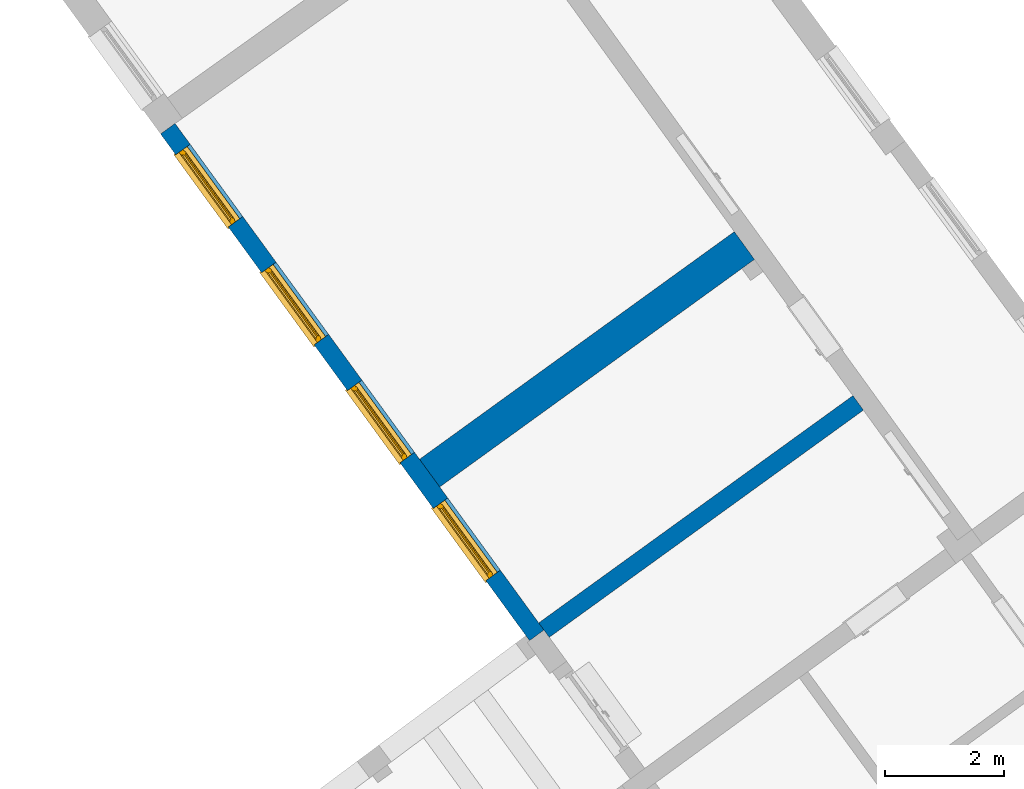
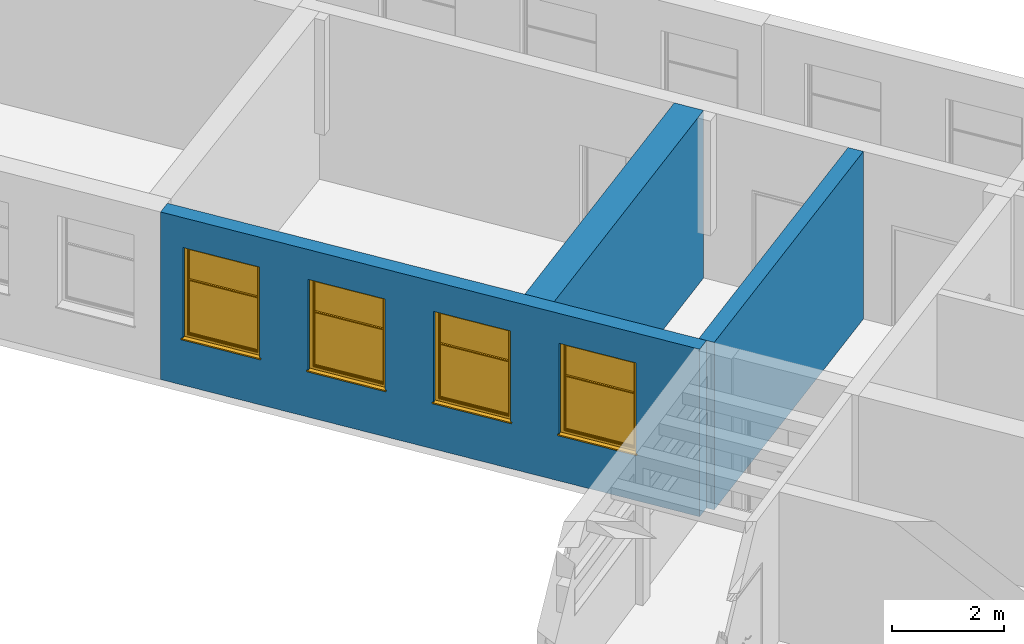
"""IFC2X3 building model written with IfcOpenShell, lengths in millimetres."""

from ifc_helpers import new_model, entity, si_unit, converted_unit, derived_unit, direction, frame, frame_2d, origin, place, context, subcontext, project, spatial, polyline, rectangle, outline, extrude, faceted_brep, source, transform, mapped, material, material_list, layer, layer_set, layer_usage, type_object, type_shapes, element, fill, save


model = new_model("IFC2X3")

# Units and contexts
model_context = context("Model", 3, precision=0.01, world=origin(), true_north=direction((6.123031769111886e-17, 1.0)))
body_context = subcontext(model_context, "Body", "Model", "MODEL_VIEW")
ifc_project = project(units=[si_unit("LENGTHUNIT", "METRE", prefix="MILLI"), si_unit("AREAUNIT", "SQUARE_METRE"), si_unit("VOLUMEUNIT", "CUBIC_METRE"), converted_unit("PLANEANGLEUNIT", "DEGREE", entity("IfcRatioMeasure", 0.017453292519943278), si_unit("PLANEANGLEUNIT", "RADIAN"), dimensions=[0, 0, 0, 0, 0, 0, 0]), si_unit("MASSUNIT", "GRAM", prefix="KILO"), derived_unit("MASSDENSITYUNIT", [(si_unit("MASSUNIT", "GRAM", prefix="KILO"), 1), (si_unit("LENGTHUNIT", "METRE"), -3)]), derived_unit("MOMENTOFINERTIAUNIT", [(si_unit("LENGTHUNIT", "METRE"), 4)]), si_unit("TIMEUNIT", "SECOND"), si_unit("FREQUENCYUNIT", "HERTZ"), si_unit("THERMODYNAMICTEMPERATUREUNIT", "DEGREE_CELSIUS"), derived_unit("THERMALTRANSMITTANCEUNIT", [(si_unit("MASSUNIT", "GRAM", prefix="KILO"), 1), (si_unit("THERMODYNAMICTEMPERATUREUNIT", "KELVIN"), -1), (si_unit("TIMEUNIT", "SECOND"), -3)]), derived_unit("THERMALCONDUCTANCEUNIT", [(si_unit("MASSUNIT", "GRAM", prefix="KILO"), 1), (si_unit("LENGTHUNIT", "METRE"), 1), (si_unit("THERMODYNAMICTEMPERATUREUNIT", "KELVIN"), -1), (si_unit("TIMEUNIT", "SECOND"), -3)]), derived_unit("VOLUMETRICFLOWRATEUNIT", [(si_unit("LENGTHUNIT", "METRE"), 3), (si_unit("TIMEUNIT", "SECOND"), -1)]), derived_unit("MASSFLOWRATEUNIT", [(si_unit("MASSUNIT", "GRAM", prefix="KILO"), 1), (si_unit("TIMEUNIT", "SECOND"), -1)]), derived_unit("ROTATIONALFREQUENCYUNIT", [(si_unit("TIMEUNIT", "SECOND"), -1)]), si_unit("ELECTRICCURRENTUNIT", "AMPERE"), si_unit("ELECTRICVOLTAGEUNIT", "VOLT"), si_unit("POWERUNIT", "WATT"), converted_unit("FORCEUNIT", "KIP", entity("IfcRatioMeasure", 2.088543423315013e-05), si_unit("FORCEUNIT", "NEWTON"), dimensions=[1, 1, -2, 0, 0, 0, 0]), si_unit("ILLUMINANCEUNIT", "LUX"), si_unit("LUMINOUSFLUXUNIT", "LUMEN"), si_unit("LUMINOUSINTENSITYUNIT", "CANDELA"), derived_unit("USERDEFINED", [(si_unit("MASSUNIT", "GRAM", prefix="KILO"), -1), (si_unit("LENGTHUNIT", "METRE"), -2), (si_unit("TIMEUNIT", "SECOND"), 3), (si_unit("LUMINOUSFLUXUNIT", "LUMEN"), 1)]), derived_unit("USERDEFINED", [(si_unit("MASSUNIT", "GRAM", prefix="KILO"), 1), (si_unit("LENGTHUNIT", "METRE"), 3), (si_unit("TIMEUNIT", "SECOND"), -3), (si_unit("ELECTRICCURRENTUNIT", "AMPERE"), -2)]), derived_unit("USERDEFINED", [(si_unit("LENGTHUNIT", "METRE"), 2), (si_unit("TIMEUNIT", "SECOND"), -2)]), derived_unit("SOUNDPOWERUNIT", [(si_unit("MASSUNIT", "GRAM", prefix="KILO"), 1), (si_unit("LENGTHUNIT", "METRE"), 2), (si_unit("TIMEUNIT", "SECOND"), -3)]), derived_unit("SOUNDPRESSUREUNIT", [(si_unit("MASSUNIT", "GRAM", prefix="KILO"), 1), (si_unit("LENGTHUNIT", "METRE"), -1), (si_unit("TIMEUNIT", "SECOND"), -2)]), derived_unit("LINEARVELOCITYUNIT", [(si_unit("LENGTHUNIT", "METRE"), 1), (si_unit("TIMEUNIT", "SECOND"), -1)]), si_unit("PRESSUREUNIT", "PASCAL"), derived_unit("USERDEFINED", [(si_unit("LENGTHUNIT", "METRE"), -2), (si_unit("MASSUNIT", "GRAM", prefix="KILO"), 1), (si_unit("TIMEUNIT", "SECOND"), -2)]), derived_unit("LINEARFORCEUNIT", [(si_unit("MASSUNIT", "GRAM", prefix="KILO"), 1), (si_unit("LENGTHUNIT", "METRE"), 1), (si_unit("TIMEUNIT", "SECOND"), -2), (si_unit("LENGTHUNIT", "METRE"), -1)]), derived_unit("PLANARFORCEUNIT", [(si_unit("MASSUNIT", "GRAM", prefix="KILO"), 1), (si_unit("LENGTHUNIT", "METRE"), 1), (si_unit("TIMEUNIT", "SECOND"), -2), (si_unit("LENGTHUNIT", "METRE"), -2)]), derived_unit("SPECIFICHEATCAPACITYUNIT", [(si_unit("LENGTHUNIT", "METRE"), 2), (si_unit("TIMEUNIT", "SECOND"), -2), (si_unit("THERMODYNAMICTEMPERATUREUNIT", "KELVIN"), -1)]), derived_unit("VAPORPERMEABILITYUNIT", [(si_unit("TIMEUNIT", "SECOND"), 1), (si_unit("LENGTHUNIT", "METRE"), -1)]), derived_unit("DYNAMICVISCOSITYUNIT", [(si_unit("MASSUNIT", "GRAM", prefix="KILO"), 1), (si_unit("LENGTHUNIT", "METRE"), -1), (si_unit("TIMEUNIT", "SECOND"), -1)]), derived_unit("THERMALEXPANSIONCOEFFICIENTUNIT", [(si_unit("THERMODYNAMICTEMPERATUREUNIT", "KELVIN"), -1)])], contexts=[model_context])

# Site, building, storey
site_placement = place(None, frame((0.0, 0.0, 0.0), z_axis=(0.0, 0.0, 1.0), x_axis=(0.8191520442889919, 0.5735764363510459, 0.0)))
site = spatial("IfcSite", under=ifc_project, at=site_placement, Name="Default", CompositionType="ELEMENT")
building_placement = place(site_placement, origin())
building = spatial("IfcBuilding", under=site, at=building_placement, CompositionType="ELEMENT")
storey_1_placement = place(building_placement, origin())
storey_1 = spatial("IfcBuildingStorey", under=building, at=storey_1_placement, Name="1.EG +0.00", CompositionType="ELEMENT", Elevation=-4.331468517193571e-12)

# Wall
ifc_material_1 = material(Name="Analytical Wall Surface_CJC")
ifc_layer_1 = layer(ifc_material_1, 300.0)
ifc_layer_set_1 = layer_set([ifc_layer_1], Name="Basic Wall:Wand_Innen_30")
ifc_layer_usage_1 = layer_usage(ifc_layer_set_1, "AXIS2", "NEGATIVE", 150.0)
wall_type_1 = type_object("IfcWallType", Name="Basic Wall:Wand_Innen_30", PredefinedType="STANDARD", material=ifc_layer_set_1)
wall_1_placement = place(storey_1_placement, frame((-184312.74203148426, 167550.47613958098, -1150.0), z_axis=(0.0, 0.0, 1.0), x_axis=(-0.9998838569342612, -0.015240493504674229, 0.0)))
element("IfcWallStandardCase", 1, at=wall_1_placement, inside=storey_1, type_object=wall_type_1, material=ifc_layer_usage_1, Name="Basic Wall:Wand_Innen_30", ObjectType="Basic Wall:Wand_Innen_30", context=body_context, shape_type="SweptSolid", body=[
    extrude(outline(polyline([(6514.171317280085, -150.0), (6513.677976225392, -0.4949716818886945), (6513.18136852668, 150.0), (0.0, 150.0), (0.0, -150.0), (6514.171317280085, -150.0)])), origin(), (0.0, 0.0, 1.0), 3650.0000000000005),
])

# Wall, openings
ifc_layer_2 = layer(ifc_material_1, 300.0)
ifc_layer_set_2 = layer_set([ifc_layer_2], Name="Basic Wall:Wand_Aussen_30")
ifc_layer_usage_2 = layer_usage(ifc_layer_set_2, "AXIS2", "NEGATIVE", 150.0)
wall_type_2 = type_object("IfcWallType", Name="Basic Wall:Wand_Aussen_30", PredefinedType="STANDARD", material=ifc_layer_set_2)
wall_2_placement = place(storey_1_placement, frame((-190975.6452511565, 167448.91841111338, -1150.0), z_axis=(0.0, 0.0, 1.0), x_axis=(-0.018539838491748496, 0.9998281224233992, 0.0)))
wall_2 = element("IfcWallStandardCase", 2, at=wall_2_placement, inside=storey_1, type_object=wall_type_2, material=ifc_layer_usage_2, Name="Basic Wall:Wand_Aussen_30", ObjectType="Basic Wall:Wand_Aussen_30", context=body_context, shape_type="SweptSolid", body=[
    extrude(rectangle(XDim=10528.104337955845, YDim=300.0000000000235, at=frame_2d((5264.0521689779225, 1.0345502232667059e-11), x_axis=(-1.0, 0.0))), origin(), (0.0, 0.0, 1.0), 3650.0000000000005),
])
opening_1_placement = place(wall_2_placement, frame((10094.890840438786, 150.0, 1000.0)))
opening_1 = element("IfcOpeningElement", 3, at=opening_1_placement, cuts=wall_2, Name="Windows_Sgl_Horz_Bars:200x150:1", ObjectType="Opening", context=body_context, shape_type="SweptSolid", body=[
    extrude(rectangle(XDim=2000.000000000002, YDim=1500.0000000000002, at=frame_2d((1000.0000000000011, 750.0000000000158), x_axis=(-1.0, 0.0))), frame((0.0, 0.0, 0.0), z_axis=(0.0, -1.0, 0.0), x_axis=(0.0, 0.0, 1.0)), (0.0, 0.0, 1.0), 300.0),
])
opening_2_placement = place(wall_2_placement, frame((7644.890840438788, 150.0, 1000.0)))
opening_2 = element("IfcOpeningElement", 4, at=opening_2_placement, cuts=wall_2, Name="Windows_Sgl_Horz_Bars:200x150:1", ObjectType="Opening", context=body_context, shape_type="SweptSolid", body=[
    extrude(rectangle(XDim=2000.000000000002, YDim=1500.0, at=frame_2d((1000.0000000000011, 750.0000000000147), x_axis=(-1.0, 0.0))), frame((0.0, 0.0, 0.0), z_axis=(0.0, -1.0, 0.0), x_axis=(0.0, 0.0, 1.0)), (0.0, 0.0, 1.0), 300.0),
])
opening_3_placement = place(wall_2_placement, frame((5194.890840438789, 150.0, 1000.0)))
opening_3 = element("IfcOpeningElement", 5, at=opening_3_placement, cuts=wall_2, Name="Windows_Sgl_Horz_Bars:200x150:1", ObjectType="Opening", context=body_context, shape_type="SweptSolid", body=[
    extrude(rectangle(XDim=2000.000000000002, YDim=1500.0, at=frame_2d((1000.0000000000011, 750.0000000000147), x_axis=(-1.0, 0.0))), frame((0.0, 0.0, 0.0), z_axis=(0.0, -1.0, 0.0), x_axis=(0.0, 0.0, 1.0)), (0.0, 0.0, 1.0), 300.0),
])
opening_4_placement = place(wall_2_placement, frame((2744.890840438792, 150.0, 1000.0)))
opening_4 = element("IfcOpeningElement", 6, at=opening_4_placement, cuts=wall_2, Name="Windows_Sgl_Horz_Bars:200x150:1", ObjectType="Opening", context=body_context, shape_type="SweptSolid", body=[
    extrude(rectangle(XDim=2000.000000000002, YDim=1500.0, at=frame_2d((1000.0000000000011, 750.0000000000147), x_axis=(-1.0, 0.0))), frame((0.0, 0.0, 0.0), z_axis=(0.0, -1.0, 0.0), x_axis=(0.0, 0.0, 1.0)), (0.0, 0.0, 1.0), 300.0),
])

# Storey
storey_2_placement = place(building_placement, frame((0.0, 0.0, -1150.0)))
storey_2 = spatial("IfcBuildingStorey", under=building, at=storey_2_placement, Name="6.EG KH -1.15", CompositionType="ELEMENT", Elevation=-1150.0000000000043)

# Window
ifc_material_2 = material(Name="Window Frame")
ifc_material_3 = material(Name="Glass")
ifc_material_list = material_list([ifc_material_2, ifc_material_3])
window_style = type_object("IfcWindowStyle", Name="Windows_Sgl_Horz_Bars:200x150", ConstructionType="NOTDEFINED", OperationType="SINGLE_PANEL", ParameterTakesPrecedence=False, Sizeable=False, material=ifc_material_list)
shared_shape = source(origin(), body_context, "Body", "Brep", [
    faceted_brep([(1525.0, -8.086864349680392, 0.0), (-25.0, -8.086864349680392, 0.0), (-25.0, 16.91313565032, 0.0), (0.0, 16.91313565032, 0.0), (0.0, 83.9131356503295, 0.0), (1500.0, 83.9131356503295, 0.0), (1500.0, 16.91313565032, 0.0), (1525.0, 16.91313565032, 0.0), (1525.0, -8.086864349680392, 25.0), (1525.0, 16.91313565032, 25.0), (1500.0, 16.91313565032, 25.0), (1500.0, 83.9131356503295, 25.0), (0.0, 83.9131356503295, 25.0), (0.0, 16.91313565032, 25.0), (-25.0, 16.91313565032, 25.0), (-25.0, -8.086864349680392, 25.0)], [[[0, 1, 2, 3, 4, 5, 6, 7]], [[8, 9, 10, 11, 12, 13, 14, 15]], [[7, 9, 8, 0]], [[6, 10, 9, 7]], [[5, 11, 10, 6]], [[4, 12, 11, 5]], [[3, 13, 12, 4]], [[2, 14, 13, 3]], [[1, 15, 14, 2]], [[0, 8, 15, 1]]]),
    faceted_brep([(1500.0, 83.9131356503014, 0.0), (1500.0, 83.91313565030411, 2000.0), (0.0, 83.9131356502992, 2000.0), (0.0, 83.91313565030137, 0.0), (1440.0, 83.9131356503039, 1940.0), (1440.0, 83.9131356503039, 75.0), (60.0, 83.91313565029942, 75.0), (60.0, 83.91313565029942, 1940.0), (1500.0, 254.41313565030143, 0.0), (1500.0, 254.41313565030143, 33.80888466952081), (1500.0, 181.91313565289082, 44.74496761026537), (1500.0, 181.91313565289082, 49.68767004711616), (1500.0, 166.91313565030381, 51.0), (1500.0, 166.91313565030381, 2000.0), (1460.0, 166.91313565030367, 1960.0), (40.0, 166.91313565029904, 1960.0), (40.0, 166.91313565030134, 63.0), (1460.0, 166.91313565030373, 63.0), (0.0, 166.91313565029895, 51.0), (0.0, 166.91313565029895, 2000.0), (1460.0, 101.91313565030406, 63.0), (1460.0, 101.91313565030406, 1960.0), (40.0, 101.91313565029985, 63.0), (40.0, 101.91313565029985, 1960.0), (1440.0, 101.913135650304, 1940.0), (60.0, 101.91313565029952, 1940.0), (60.0, 101.91313565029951, 75.0), (1440.0, 101.91313565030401, 75.0), (0.0, 181.91313565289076, 49.68767004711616), (0.0, 181.91313565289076, 44.74496761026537), (0.0, 254.41313565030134, 33.80888466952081), (0.0, 254.41313565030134, 0.0)], [[[0, 1, 2, 3], [4, 5, 6, 7]], [[0, 8, 9, 10, 11, 12, 13, 1]], [[14, 15, 16, 17], [12, 18, 19, 13]], [[17, 20, 21, 14]], [[21, 20, 22, 23], [24, 25, 26, 27]], [[24, 27, 5, 4]], [[1, 13, 19, 2]], [[14, 21, 23, 15]], [[7, 25, 24, 4]], [[18, 28, 29, 30, 31, 3, 2, 19]], [[15, 23, 22, 16]], [[7, 6, 26, 25]], [[31, 8, 0, 3]], [[30, 9, 8, 31]], [[29, 10, 9, 30]], [[28, 11, 10, 29]], [[18, 12, 11, 28]], [[20, 17, 16, 22]], [[5, 27, 26, 6]]], outer=[[True, False], [True], [False, True], [True], [True, False], [True], [True], [True], [True], [True], [True], [True], [True], [True], [True], [True], [True], [True], [True]]),
    faceted_brep([(69.85196227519, 130.91313565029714, 93.0), (1430.0, 130.91313565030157, 93.0), (1430.0, 130.91313565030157, 1254.8307627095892), (69.85196227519, 130.9131356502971, 1254.8307627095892), (69.85196227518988, 154.9131356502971, 1254.8307627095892), (69.85196227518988, 154.91313565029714, 93.0), (1430.0, 154.91313565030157, 1254.8307627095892), (1430.0, 154.91313565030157, 93.0)], [[[0, 1, 2, 3]], [[3, 4, 5, 0]], [[2, 6, 4, 3]], [[1, 7, 6, 2]], [[0, 5, 7, 1]], [[5, 4, 6, 7]]]),
    faceted_brep([(1430.0, 154.91313565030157, 1265.1692372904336), (69.85196227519, 154.9131356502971, 1265.1692372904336), (69.85196227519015, 154.9131356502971, 1930.0), (1430.0, 154.91313565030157, 1930.0), (69.85196227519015, 130.9131356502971, 1265.1692372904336), (1430.0, 130.91313565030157, 1265.1692372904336), (69.85196227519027, 130.9131356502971, 1930.0), (1430.0, 130.91313565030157, 1930.0)], [[[0, 1, 2, 3]], [[4, 1, 0, 5]], [[6, 2, 1, 4]], [[7, 3, 2, 6]], [[5, 0, 3, 7]], [[5, 7, 6, 4]]]),
    faceted_brep([(69.85196227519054, 178.46014103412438, 1265.1692372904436), (69.85196227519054, 178.46014103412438, 1254.8307627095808), (69.85196227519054, 172.78434753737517, 1245.0), (69.85196227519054, 154.91313565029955, 1245.0), (69.85196227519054, 154.91313565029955, 1252.0), (69.85196227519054, 130.91313565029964, 1252.0), (69.85196227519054, 130.91313565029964, 1245.0), (69.85196227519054, 116.4060354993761, 1245.0), (69.85196227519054, 101.91313565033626, 1250.1480377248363), (69.85196227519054, 101.91313565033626, 1269.8519622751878), (69.85196227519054, 116.4060354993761, 1275.0), (69.85196227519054, 130.91313565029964, 1275.0), (69.85196227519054, 130.91313565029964, 1268.0), (69.85196227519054, 154.91313565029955, 1268.0), (69.85196227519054, 154.91313565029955, 1275.0), (69.85196227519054, 172.78434753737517, 1275.0), (1430.1480377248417, 178.4601410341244, 1265.1692372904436), (1430.1480377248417, 172.7843475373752, 1275.0), (1430.1480377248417, 154.91313565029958, 1275.0), (1430.1480377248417, 154.91313565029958, 1268.0), (1430.1480377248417, 130.9131356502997, 1268.0), (1430.1480377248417, 130.9131356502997, 1275.0), (1430.1480377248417, 116.40603549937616, 1275.0), (1430.1480377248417, 101.91313565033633, 1269.8519622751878), (1430.1480377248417, 101.91313565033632, 1250.1480377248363), (1430.1480377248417, 116.40603549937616, 1245.0), (1430.1480377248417, 130.9131356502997, 1245.0), (1430.1480377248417, 130.9131356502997, 1252.0), (1430.1480377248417, 154.91313565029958, 1252.0), (1430.1480377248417, 154.91313565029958, 1245.0), (1430.1480377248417, 172.7843475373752, 1245.0), (1430.1480377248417, 178.4601410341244, 1254.8307627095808)], [[[0, 1, 2, 3, 4, 5, 6, 7, 8, 9, 10, 11, 12, 13, 14, 15]], [[16, 17, 18, 19, 20, 21, 22, 23, 24, 25, 26, 27, 28, 29, 30, 31]], [[15, 17, 16, 0]], [[14, 18, 17, 15]], [[13, 19, 18, 14]], [[12, 20, 19, 13]], [[11, 21, 20, 12]], [[10, 22, 21, 11]], [[9, 23, 22, 10]], [[8, 24, 23, 9]], [[7, 25, 24, 8]], [[6, 26, 25, 7]], [[5, 27, 26, 6]], [[4, 28, 27, 5]], [[3, 29, 28, 4]], [[2, 30, 29, 3]], [[1, 31, 30, 2]], [[0, 16, 31, 1]]]),
    faceted_brep([(1470.0, 166.913135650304, 1970.0), (1470.0, 166.913135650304, 53.0), (1470.0, 172.68663834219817, 53.0), (1470.0, 172.68663834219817, 1970.0), (1460.0, 101.9131356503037, 1960.0), (1460.0, 101.9131356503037, 63.0), (1460.0, 166.91313565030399, 63.0), (1460.0, 166.91313565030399, 1960.0), (1420.0, 116.40603549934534, 1920.0), (1420.0, 116.40603549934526, 103.0), (1430.1480377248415, 101.9131356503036, 92.85196227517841), (1430.1480377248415, 101.91313565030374, 1930.148037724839), (1420.0, 130.91313565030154, 1920.0), (1420.0, 130.91313565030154, 103.0), (1430.0, 154.91313565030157, 1930.0), (1430.0, 154.91313565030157, 93.0), (1430.0, 130.91313565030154, 93.0), (1430.0, 130.91313565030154, 1930.0), (1420.0, 172.68663834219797, 1920.0), (1420.0, 172.68663834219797, 103.0), (1420.0, 154.91313565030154, 103.0), (1420.0, 154.91313565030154, 1920.0), (1430.0, 178.46014103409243, 1930.0), (1430.0, 178.46014103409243, 93.0), (1459.2153903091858, 178.46014103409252, 63.784609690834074), (1459.215390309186, 178.46014103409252, 1959.2153903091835), (30.0, 166.9131356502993, 53.0), (30.0, 172.68663834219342, 53.0), (40.0, 101.91313565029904, 63.0), (40.0, 166.91313565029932, 63.0), (80.0, 116.40603549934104, 103.0), (69.85196227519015, 101.91313565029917, 92.8519622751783), (80.0, 130.91313565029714, 103.0), (70.0, 154.9131356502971, 93.0), (70.0, 130.9131356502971, 93.0), (80.0, 172.68663834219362, 103.0), (80.0, 154.9131356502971, 103.0), (70.0, 178.46014103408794, 93.0), (40.78460969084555, 178.46014103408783, 63.784609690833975), (30.0, 166.9131356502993, 1970.0), (30.0, 172.68663834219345, 1970.0), (40.0, 101.91313565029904, 1960.0), (40.0, 166.91313565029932, 1960.0), (80.0, 116.40603549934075, 1920.0), (69.85196227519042, 101.91313565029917, 1930.1480377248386), (80.0, 130.91313565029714, 1920.0), (70.0, 154.9131356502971, 1930.0), (70.0, 130.9131356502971, 1930.0), (80.0, 172.68663834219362, 1920.0), (80.0, 154.9131356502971, 1920.0), (70.0, 178.46014103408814, 1930.0), (40.78460969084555, 178.46014103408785, 1959.2153903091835)], [[[0, 1, 2, 3]], [[4, 5, 6, 7]], [[8, 9, 10, 11]], [[12, 13, 9, 8]], [[14, 15, 16, 17]], [[18, 19, 20, 21]], [[22, 23, 19, 18]], [[3, 2, 24, 25]], [[1, 26, 27, 2]], [[5, 28, 29, 6]], [[9, 30, 31, 10]], [[13, 32, 30, 9]], [[15, 33, 34, 16]], [[19, 35, 36, 20]], [[23, 37, 35, 19]], [[2, 27, 38, 24]], [[26, 39, 40, 27]], [[28, 41, 42, 29]], [[30, 43, 44, 31]], [[32, 45, 43, 30]], [[33, 46, 47, 34]], [[35, 48, 49, 36]], [[37, 50, 48, 35]], [[27, 40, 51, 38]], [[39, 0, 3, 40]], [[1, 0, 39, 26], [7, 6, 29, 42]], [[41, 4, 7, 42]], [[5, 4, 41, 28], [11, 10, 31, 44]], [[43, 8, 11, 44]], [[45, 12, 8, 43]], [[13, 12, 45, 32], [17, 16, 34, 47]], [[46, 14, 17, 47]], [[15, 14, 46, 33], [21, 20, 36, 49]], [[48, 18, 21, 49]], [[50, 22, 18, 48]], [[23, 22, 50, 37], [25, 24, 38, 51]], [[40, 3, 25, 51]]], outer=[[True], [True], [True], [True], [True], [True], [True], [True], [True], [True], [True], [True], [True], [True], [True], [True], [True], [True], [True], [True], [True], [True], [True], [True], [True], [True, False], [True], [True, False], [True], [True], [False, True], [True], [True, False], [True], [True], [False, True], [True]]),
])
type_shapes(window_style, [shared_shape])
window_1_placement = place(opening_1_placement, frame((0.0, 16.91313565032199, 0.0), z_axis=(0.0, 0.0, 1.0), x_axis=(-1.0, 0.0, 0.0)))
window_1 = element("IfcWindow", 7, at=window_1_placement, inside=storey_2, type_object=window_style, material=ifc_material_list, Name="Windows_Sgl_Horz_Bars:200x150", ObjectType="Windows_Sgl_Horz_Bars:200x150", OverallHeight=2000.0000000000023, OverallWidth=1500.0000000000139, context=body_context, shape_type="MappedRepresentation", body=[
    mapped(shared_shape, transform((0.0, 0.0, 0.0), scale=1.0)),
])

fill(opening_1, window_1)

window_2_placement = place(opening_2_placement, frame((0.0, 16.913135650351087, 0.0), z_axis=(0.0, 0.0, 1.0), x_axis=(-1.0, 0.0, 0.0)))
window_2 = element("IfcWindow", 8, at=window_2_placement, inside=storey_2, type_object=window_style, material=ifc_material_list, Name="Windows_Sgl_Horz_Bars:200x150", ObjectType="Windows_Sgl_Horz_Bars:200x150", OverallHeight=2000.0000000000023, OverallWidth=1500.0000000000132, context=body_context, shape_type="MappedRepresentation", body=[
    mapped(shared_shape, transform((0.0, 0.0, 0.0), scale=1.0)),
])

fill(opening_2, window_2)

window_3_placement = place(opening_3_placement, frame((0.0, 16.913135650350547, 0.0), z_axis=(0.0, 0.0, 1.0), x_axis=(-1.0, 0.0, 0.0)))
window_3 = element("IfcWindow", 9, at=window_3_placement, inside=storey_2, type_object=window_style, material=ifc_material_list, Name="Windows_Sgl_Horz_Bars:200x150", ObjectType="Windows_Sgl_Horz_Bars:200x150", OverallHeight=2000.0000000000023, OverallWidth=1500.0000000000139, context=body_context, shape_type="MappedRepresentation", body=[
    mapped(shared_shape, transform((0.0, 0.0, 0.0), scale=1.0)),
])

fill(opening_3, window_3)

window_4_placement = place(opening_4_placement, frame((0.0, 16.91313565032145, 0.0), z_axis=(0.0, 0.0, 1.0), x_axis=(-1.0, 0.0, 0.0)))
window_4 = element("IfcWindow", 10, at=window_4_placement, inside=storey_2, type_object=window_style, material=ifc_material_list, Name="Windows_Sgl_Horz_Bars:200x150", ObjectType="Windows_Sgl_Horz_Bars:200x150", OverallHeight=2000.0000000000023, OverallWidth=1500.0000000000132, context=body_context, shape_type="MappedRepresentation", body=[
    mapped(shared_shape, transform((0.0, 0.0, 0.0), scale=1.0)),
])

fill(opening_4, window_4)

# Wall
ifc_layer_3 = layer(ifc_material_1, 575.0)
ifc_layer_set_3 = layer_set([ifc_layer_3], Name="Basic Wall:Wand_Innen_57.5")
ifc_layer_usage_3 = layer_usage(ifc_layer_set_3, "AXIS2", "NEGATIVE", 287.5)
wall_type_3 = type_object("IfcWallType", Name="Basic Wall:Wand_Innen_57.5", PredefinedType="STANDARD", material=ifc_layer_set_3)
wall_3_placement = place(storey_1_placement, frame((-184362.42987819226, 170812.00915456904, -1150.0), z_axis=(0.0, 0.0, 1.0), x_axis=(-0.9998851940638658, -0.015152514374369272, 0.0)))
element("IfcWallStandardCase", 11, at=wall_3_placement, inside=storey_1, type_object=wall_type_3, material=ifc_layer_usage_3, Name="Basic Wall:Wand_Innen_57.5", ObjectType="Basic Wall:Wand_Innen_57.5", context=body_context, shape_type="SweptSolid", body=[
    extrude(outline(polyline([(6525.441308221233, -287.499999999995), (6523.493312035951, 287.5000000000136), (0.0, 287.4999999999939), (0.05059384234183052, -287.4999999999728), (6525.441308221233, -287.499999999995)])), origin(), (0.0, 0.0, 1.0), 3650.000000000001),
])

save(model, "model.ifc")
